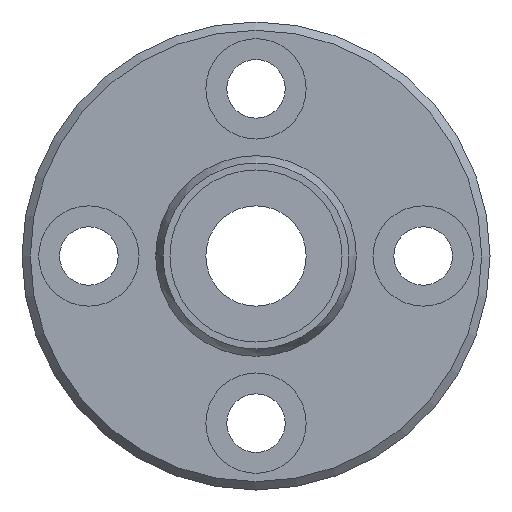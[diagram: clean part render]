
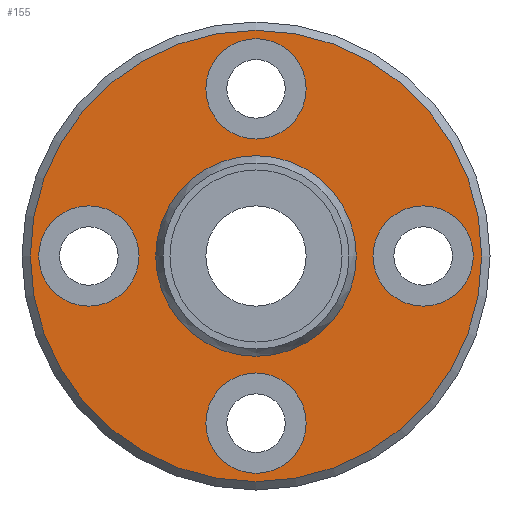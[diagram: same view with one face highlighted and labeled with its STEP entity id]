
A CAD part, left-side view. The second image highlights one B-rep face of the part: STEP entity #155.
In plain terms, the highlighted planar face has unit normal (-1, 0, 0).
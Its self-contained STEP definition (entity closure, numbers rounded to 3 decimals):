
#60=CARTESIAN_POINT('',(15.,0.,13.5));
#61=VERTEX_POINT('',#60);
#62=CARTESIAN_POINT('',(15.,0.0,0.0));
#63=DIRECTION('',(1.0,0.0,0.0));
#64=DIRECTION('',(0.0,0.0,-1.0));
#65=AXIS2_PLACEMENT_3D('',#62,#63,#64);
#66=CIRCLE('',#65,13.5);
#67=EDGE_CURVE('',#61,#61,#66,.T.);
#92=CARTESIAN_POINT('',(15.,0.0,9.905));
#93=DIRECTION('',(-1.0,0.0,0.0));
#94=DIRECTION('',(0.0,0.0,1.0));
#95=AXIS2_PLACEMENT_3D('',#92,#93,#94);
#96=PLANE('',#95);
#97=ORIENTED_EDGE('',*,*,#67,.F.);
#98=EDGE_LOOP('',(#97));
#99=FACE_OUTER_BOUND('',#98,.T.);
#100=CARTESIAN_POINT('',(15.,0.0,5.809));
#101=VERTEX_POINT('',#100);
#102=CARTESIAN_POINT('',(15.,0.0,0.0));
#103=DIRECTION('',(-1.0,0.0,0.0));
#104=DIRECTION('',(0.0,0.0,1.0));
#105=AXIS2_PLACEMENT_3D('',#102,#103,#104);
#106=CIRCLE('',#105,5.809);
#107=EDGE_CURVE('',#101,#101,#106,.T.);
#108=ORIENTED_EDGE('',*,*,#107,.F.);
#109=EDGE_LOOP('',(#108));
#110=FACE_BOUND('',#109,.T.);
#111=CARTESIAN_POINT('',(15.0,-7.,0.));
#112=VERTEX_POINT('',#111);
#113=CARTESIAN_POINT('',(15.,-10.0,0.));
#114=DIRECTION('',(1.0,0.0,0.0));
#115=DIRECTION('',(0.0,1.0,0.0));
#116=AXIS2_PLACEMENT_3D('',#113,#114,#115);
#117=CIRCLE('',#116,3.);
#118=EDGE_CURVE('',#112,#112,#117,.T.);
#119=ORIENTED_EDGE('',*,*,#118,.T.);
#120=EDGE_LOOP('',(#119));
#121=FACE_BOUND('',#120,.T.);
#122=CARTESIAN_POINT('',(15.0,13.0,0.));
#123=VERTEX_POINT('',#122);
#124=CARTESIAN_POINT('',(15.,10.0,0.));
#125=DIRECTION('',(1.0,0.0,0.0));
#126=DIRECTION('',(0.0,1.0,0.0));
#127=AXIS2_PLACEMENT_3D('',#124,#125,#126);
#128=CIRCLE('',#127,3.);
#129=EDGE_CURVE('',#123,#123,#128,.T.);
#130=ORIENTED_EDGE('',*,*,#129,.T.);
#131=EDGE_LOOP('',(#130));
#132=FACE_BOUND('',#131,.T.);
#133=CARTESIAN_POINT('',(15.0,3.,10.0));
#134=VERTEX_POINT('',#133);
#135=CARTESIAN_POINT('',(15.,0.,10.0));
#136=DIRECTION('',(1.0,0.0,0.0));
#137=DIRECTION('',(0.0,1.0,0.0));
#138=AXIS2_PLACEMENT_3D('',#135,#136,#137);
#139=CIRCLE('',#138,3.);
#140=EDGE_CURVE('',#134,#134,#139,.T.);
#141=ORIENTED_EDGE('',*,*,#140,.T.);
#142=EDGE_LOOP('',(#141));
#143=FACE_BOUND('',#142,.T.);
#144=CARTESIAN_POINT('',(15.0,3.,-10.0));
#145=VERTEX_POINT('',#144);
#146=CARTESIAN_POINT('',(15.,0.,-10.0));
#147=DIRECTION('',(1.0,0.0,0.0));
#148=DIRECTION('',(0.0,1.0,0.0));
#149=AXIS2_PLACEMENT_3D('',#146,#147,#148);
#150=CIRCLE('',#149,3.);
#151=EDGE_CURVE('',#145,#145,#150,.T.);
#152=ORIENTED_EDGE('',*,*,#151,.T.);
#153=EDGE_LOOP('',(#152));
#154=FACE_BOUND('',#153,.T.);
#155=ADVANCED_FACE('',(#99,#110,#121,#132,#143,#154),#96,.T.);
